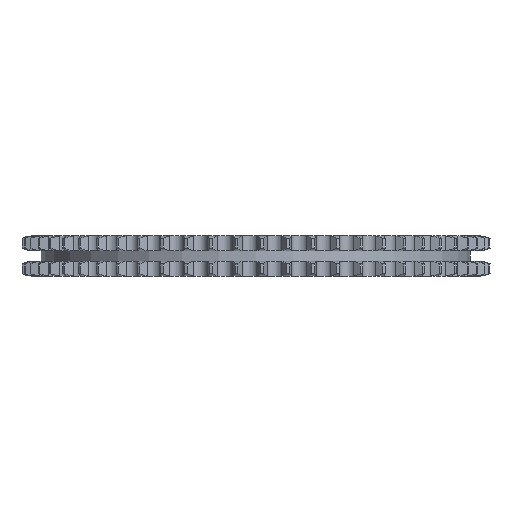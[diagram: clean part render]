
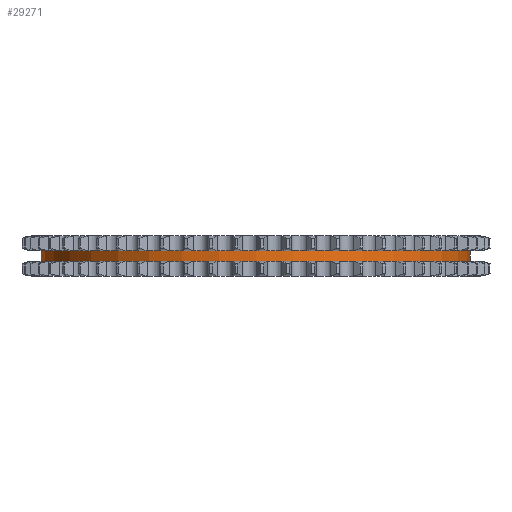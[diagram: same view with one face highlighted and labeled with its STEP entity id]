
A CAD part, left-side view. The second image highlights one B-rep face of the part: STEP entity #29271.
In plain terms, the highlighted cylindrical face has radius 161.906 mm (diameter 323.812 mm), a partial arc.
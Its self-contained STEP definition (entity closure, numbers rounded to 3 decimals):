
#5772=DIRECTION('',(0.,0.,-1.));
#5773=VECTOR('',#5772,8.1);
#5774=CARTESIAN_POINT('',(0.,161.906,4.05));
#5775=LINE('',#5774,#5773);
#5779=CARTESIAN_POINT('',(0.,0.,4.05));
#5780=DIRECTION('',(0.,0.,1.));
#5781=DIRECTION('',(0.,1.,0.));
#5782=AXIS2_PLACEMENT_3D('',#5779,#5780,#5781);
#5787=DIRECTION('',(0.,0.,-1.));
#5788=VECTOR('',#5787,8.1);
#5789=CARTESIAN_POINT('',(0.,-161.906,4.05));
#5790=LINE('',#5789,#5788);
#5794=CARTESIAN_POINT('',(0.,0.,-4.05));
#5795=DIRECTION('',(0.,0.,1.));
#5796=DIRECTION('',(0.,1.,0.));
#5797=AXIS2_PLACEMENT_3D('',#5794,#5795,#5796);
#21266=CARTESIAN_POINT('',(0.,161.906,4.05));
#21267=CARTESIAN_POINT('',(0.,161.906,-4.05));
#21268=VERTEX_POINT('',#21266);
#21269=VERTEX_POINT('',#21267);
#21270=CARTESIAN_POINT('',(0.,-161.906,4.05));
#21271=CARTESIAN_POINT('',(0.,-161.906,-4.05));
#21272=VERTEX_POINT('',#21270);
#21273=VERTEX_POINT('',#21271);
#29259=CARTESIAN_POINT('',(0.,0.,4.455));
#29260=DIRECTION('',(0.,0.,-1.));
#29261=DIRECTION('',(0.,-1.,0.));
#29262=AXIS2_PLACEMENT_3D('',#29259,#29260,#29261);
#29263=CYLINDRICAL_SURFACE('',#29262,161.906);
#29264=ORIENTED_EDGE('',*,*,#29249,.F.);
#29265=ORIENTED_EDGE('',*,*,#29239,.T.);
#29266=ORIENTED_EDGE('',*,*,#29253,.T.);
#29268=ORIENTED_EDGE('',*,*,#29267,.F.);
#29269=EDGE_LOOP('',(#29264,#29265,#29266,#29268));
#29270=FACE_OUTER_BOUND('',#29269,.F.);
#29271=ADVANCED_FACE('',(#29270),#29263,.T.);
#5783=CIRCLE('',#5782,161.906);
#5798=CIRCLE('',#5797,161.906);
#29239=EDGE_CURVE('',#21268,#21272,#5783,.T.);
#29249=EDGE_CURVE('',#21268,#21269,#5775,.T.);
#29253=EDGE_CURVE('',#21272,#21273,#5790,.T.);
#29267=EDGE_CURVE('',#21269,#21273,#5798,.T.);
